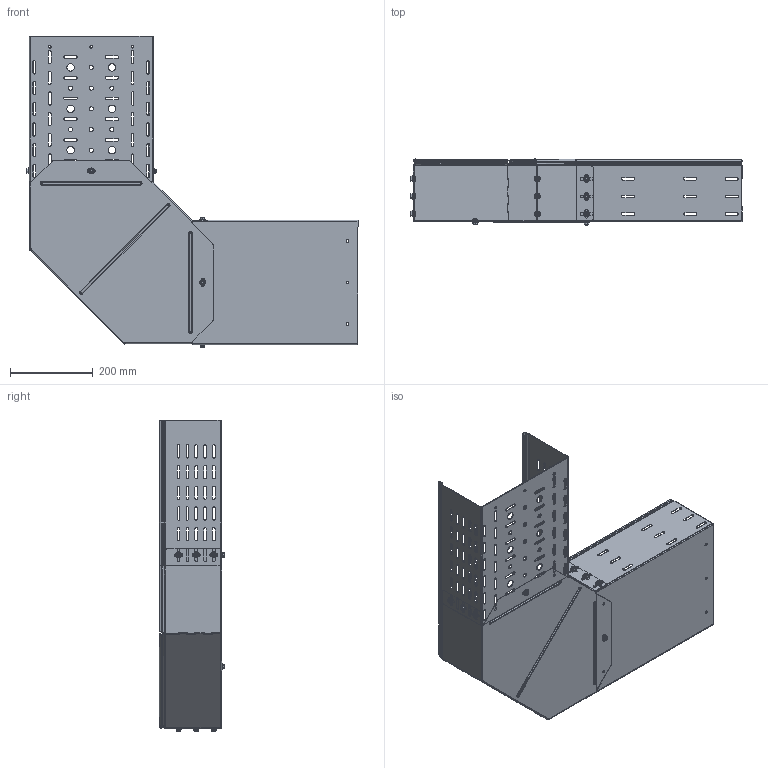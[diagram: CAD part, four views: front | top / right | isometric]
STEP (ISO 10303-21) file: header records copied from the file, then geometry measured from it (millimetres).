
FILE_DESCRIPTION (( 'STEP AP214' ), '1' );
FILE_NAME ('ﾓﾑﾏﾐ+ﾓﾋ(ﾍ)+ﾓﾋ(ﾏ)_150.STEP', '2016-10-06T19:58:22', ( '' ), ( '' ), 'SwSTEP 2.0', 'SolidWorks 2016', '' );
FILE_SCHEMA (( 'AUTOMOTIVE_DESIGN' ));
Length unit declared in the file: millimetre
Products named in the file (6): pan head cross recess screw_din_ISO 7045 - M6 x 10 - Z --- 10N; hex flange nut_din_Hexagon Flange Nut DIN 6923 - M6 - N; ÓË(Ï)-300õÍõ550_3000.1,5.300.150; ÓË(Í)-300õÍõ550_3000.1,5.300.150; 080330 ÓÑÏÐ-300õ150; ﾓﾑﾏﾐ+ﾓﾋ(ﾍ)+ﾓﾋ(ﾏ)_150
Assembly tree (31 placements, depth 2):
  ﾓﾑﾏﾐ+ﾓﾋ(ﾍ)+ﾓﾋ(ﾏ)_150
    080330 ÓÑÏÐ-300õ150
    ÓË(Í)-300õÍõ550_3000.1,5.300.150
    ÓË(Ï)-300õÍõ550_3000.1,5.300.150
    hex flange nut_din_Hexagon Flange Nut DIN 6923 - M6 - N  x14
    pan head cross recess screw_din_ISO 7045 - M6 x 10 - Z --- 10N  x14
Bounding box: 801.84 x 158.5 x 751.84 mm (x, y, z)
Volume: 964718 mm3; surface area: 1500734.2 mm2
Topology: 31 solids, 31 shells, 2019 faces, 5141 edges, 3176 vertices
Faces by surface type: plane 874, cylinder 649, cone 252, bspline 108, torus 96, sphere 40
Entity records: 38712 total; most frequent: CARTESIAN_POINT 7908, DIRECTION 6461, ORIENTED_EDGE 6274, EDGE_CURVE 3137, AXIS2_PLACEMENT_3D 2297, VERTEX_POINT 1993, VECTOR 1867, LINE 1867
